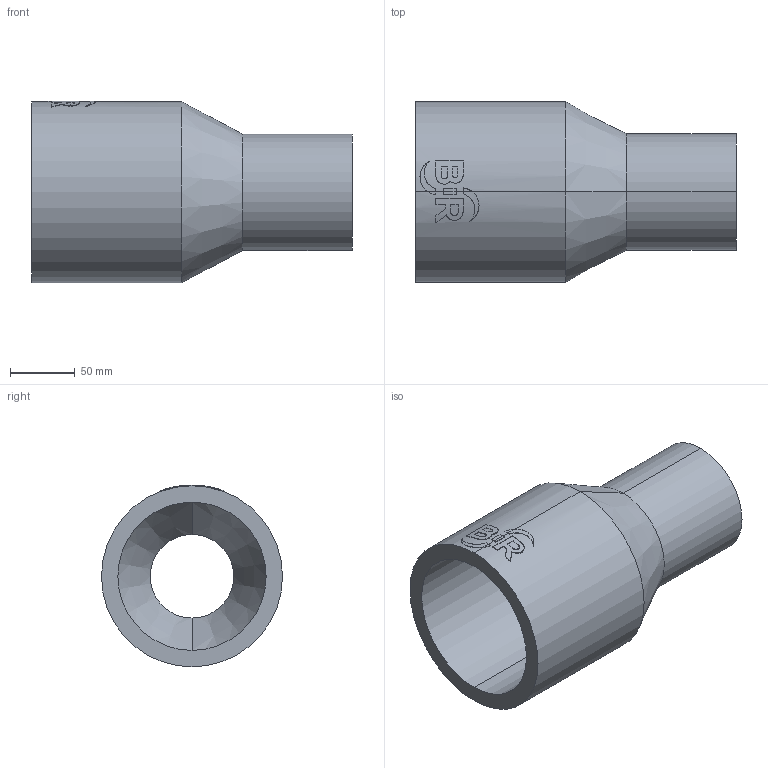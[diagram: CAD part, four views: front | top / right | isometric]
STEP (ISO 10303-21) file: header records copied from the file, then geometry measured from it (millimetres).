
FILE_DESCRIPTION (( 'STEP AP214' ), '1' );
FILE_NAME ('2323161315.STEP', '2018-07-20T10:05:56', ( '' ), ( '' ), 'SwSTEP 2.0', 'SolidWorks 2017', '' );
FILE_SCHEMA (( 'AUTOMOTIVE_DESIGN' ));
Length unit declared in the file: millimetre
Products named in the file (1): 2323161315
Bounding box: 248 x 140 x 140.46 mm (x, y, z)
Volume: 1065804.5 mm3; surface area: 176140.3 mm2
Topology: 1 solids, 1 shells, 63 faces, 160 edges, 104 vertices
Faces by surface type: cylinder 31, plane 28, cone 4
Entity records: 3229 total; most frequent: CARTESIAN_POINT 1020, ORIENTED_EDGE 320, DIRECTION 296, EDGE_CURVE 160, AXIS2_PLACEMENT_3D 112, VERTEX_POINT 104, LINE 72, VECTOR 72
